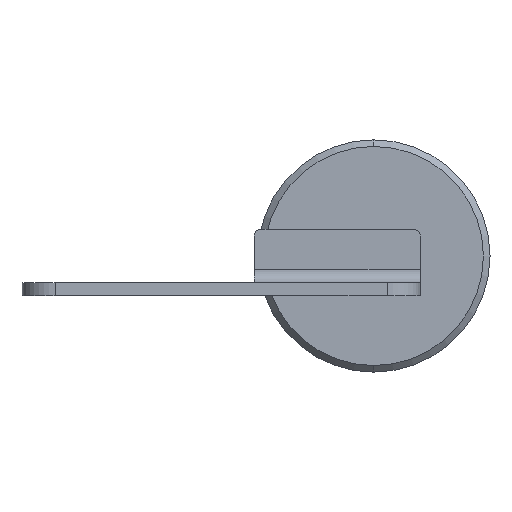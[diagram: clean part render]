
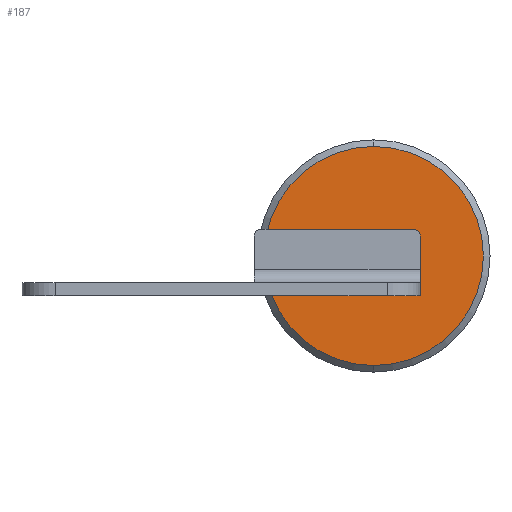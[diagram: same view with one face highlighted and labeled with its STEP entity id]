
A CAD part, left-side view. The second image highlights one B-rep face of the part: STEP entity #187.
In plain terms, the highlighted planar face has unit normal (-1, 0, 0).
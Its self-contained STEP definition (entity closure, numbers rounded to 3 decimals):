
#129 = AXIS2_PLACEMENT_3D ( 'NONE', #865, #838, #520 ) ;
#182 = FACE_OUTER_BOUND ( 'NONE', #497, .T. ) ;
#187 = ADVANCED_FACE ( 'NONE', ( #182 ), #1076, .F. ) ;
#305 = VERTEX_POINT ( 'NONE', #658 ) ;
#316 = ORIENTED_EDGE ( 'NONE', *, *, #1182, .T. ) ;
#321 = CARTESIAN_POINT ( 'NONE',  ( -4.5, -23., 6. ) ) ;
#404 = CIRCLE ( 'NONE', #1139, 16.5 ) ;
#497 = EDGE_LOOP ( 'NONE', ( #1001, #316 ) ) ;
#520 = DIRECTION ( 'NONE',  ( 0., 0., -1. ) ) ;
#655 = DIRECTION ( 'NONE',  ( -1., 0., 0. ) ) ;
#658 = CARTESIAN_POINT ( 'NONE',  ( -4.5, -23., -10.5 ) ) ;
#683 = CARTESIAN_POINT ( 'NONE',  ( -4.5, -23., 22.5 ) ) ;
#838 = DIRECTION ( 'NONE',  ( -1., 0., 0. ) ) ;
#865 = CARTESIAN_POINT ( 'NONE',  ( -4.5, -23., 6. ) ) ;
#906 = VERTEX_POINT ( 'NONE', #683 ) ;
#994 = DIRECTION ( 'NONE',  ( 0., 0., -1. ) ) ;
#1001 = ORIENTED_EDGE ( 'NONE', *, *, #1376, .T. ) ;
#1076 = PLANE ( 'NONE',  #1330 ) ;
#1139 = AXIS2_PLACEMENT_3D ( 'NONE', #321, #655, #994 ) ;
#1178 = DIRECTION ( 'NONE',  ( 0., 0., -1. ) ) ;
#1182 = EDGE_CURVE ( 'NONE', #906, #305, #404, .T. ) ;
#1184 = DIRECTION ( 'NONE',  ( 1., 0., 0. ) ) ;
#1290 = CARTESIAN_POINT ( 'NONE',  ( -4.5, -23., 6. ) ) ;
#1330 = AXIS2_PLACEMENT_3D ( 'NONE', #1290, #1184, #1178 ) ;
#1369 = CIRCLE ( 'NONE', #129, 16.5 ) ;
#1376 = EDGE_CURVE ( 'NONE', #305, #906, #1369, .T. ) ;
